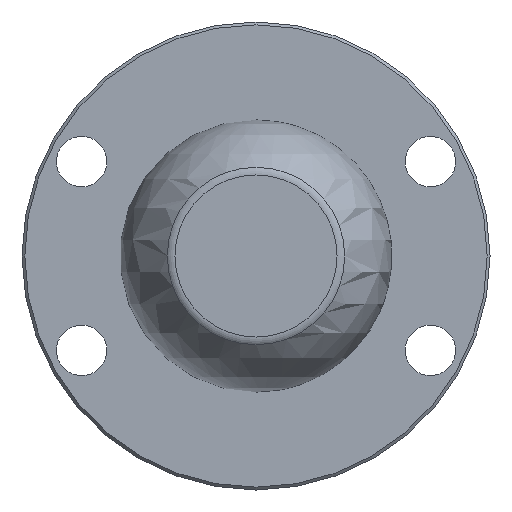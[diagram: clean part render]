
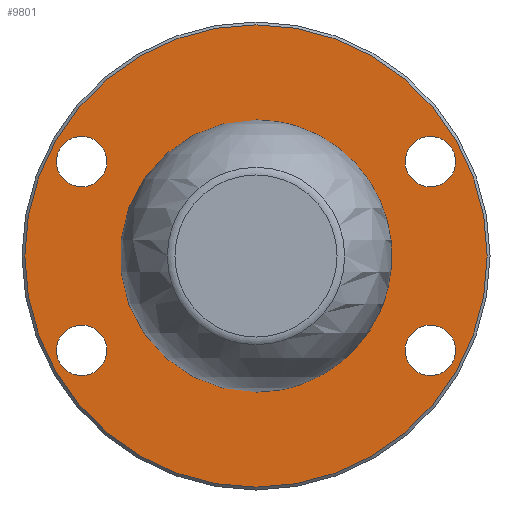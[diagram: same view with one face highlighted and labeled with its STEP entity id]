
A CAD part, left-side view. The second image highlights one B-rep face of the part: STEP entity #9801.
In plain terms, the highlighted planar face has unit normal (-1, 0, 0).
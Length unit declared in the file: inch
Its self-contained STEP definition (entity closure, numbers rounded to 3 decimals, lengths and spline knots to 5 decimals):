
#151=FACE_BOUND('',#1771,.T.);
#152=FACE_BOUND('',#1772,.T.);
#153=FACE_BOUND('',#1773,.T.);
#154=FACE_BOUND('',#1774,.T.);
#155=FACE_BOUND('',#1775,.T.);
#643=PLANE('',#10500);
#1172=FACE_OUTER_BOUND('',#1770,.T.);
#1770=EDGE_LOOP('',(#9136));
#1771=EDGE_LOOP('',(#9137));
#1772=EDGE_LOOP('',(#9138));
#1773=EDGE_LOOP('',(#9139));
#1774=EDGE_LOOP('',(#9140));
#1775=EDGE_LOOP('',(#9141));
#2387=CIRCLE('',#10499,0.6205);
#2388=CIRCLE('',#10501,1.225);
#2389=CIRCLE('',#10502,0.13386);
#2390=CIRCLE('',#10503,0.13386);
#2391=CIRCLE('',#10504,0.13386);
#2392=CIRCLE('',#10505,0.13386);
#4867=VERTEX_POINT('',#20762);
#4868=VERTEX_POINT('',#20765);
#4869=VERTEX_POINT('',#20767);
#4870=VERTEX_POINT('',#20769);
#4871=VERTEX_POINT('',#20771);
#4872=VERTEX_POINT('',#20773);
#6297=EDGE_CURVE('',#4867,#4867,#2387,.T.);
#6298=EDGE_CURVE('',#4868,#4868,#2388,.T.);
#6299=EDGE_CURVE('',#4869,#4869,#2389,.T.);
#6300=EDGE_CURVE('',#4870,#4870,#2390,.T.);
#6301=EDGE_CURVE('',#4871,#4871,#2391,.T.);
#6302=EDGE_CURVE('',#4872,#4872,#2392,.T.);
#9136=ORIENTED_EDGE('',*,*,#6298,.F.);
#9137=ORIENTED_EDGE('',*,*,#6299,.T.);
#9138=ORIENTED_EDGE('',*,*,#6300,.T.);
#9139=ORIENTED_EDGE('',*,*,#6301,.T.);
#9140=ORIENTED_EDGE('',*,*,#6302,.T.);
#9141=ORIENTED_EDGE('',*,*,#6297,.F.);
#9801=ADVANCED_FACE('',(#1172,#151,#152,#153,#154,#155),#643,.F.);
#10499=AXIS2_PLACEMENT_3D('',#20763,#12619,#12620);
#10500=AXIS2_PLACEMENT_3D('',#20764,#12621,#12622);
#10501=AXIS2_PLACEMENT_3D('',#20766,#12623,#12624);
#10502=AXIS2_PLACEMENT_3D('',#20768,#12625,#12626);
#10503=AXIS2_PLACEMENT_3D('',#20770,#12627,#12628);
#10504=AXIS2_PLACEMENT_3D('',#20772,#12629,#12630);
#10505=AXIS2_PLACEMENT_3D('',#20774,#12631,#12632);
#12619=DIRECTION('center_axis',(-1.,0.,0.));
#12620=DIRECTION('ref_axis',(0.,-1.,0.));
#12621=DIRECTION('center_axis',(1.,0.,0.));
#12622=DIRECTION('ref_axis',(0.,0.,-1.));
#12623=DIRECTION('center_axis',(1.,0.,0.));
#12624=DIRECTION('ref_axis',(0.,0.,1.));
#12625=DIRECTION('center_axis',(1.,0.,0.));
#12626=DIRECTION('ref_axis',(0.,0.,-1.));
#12627=DIRECTION('center_axis',(1.,0.,0.));
#12628=DIRECTION('ref_axis',(0.,0.,-1.));
#12629=DIRECTION('center_axis',(1.,0.,0.));
#12630=DIRECTION('ref_axis',(0.,0.,-1.));
#12631=DIRECTION('center_axis',(1.,0.,0.));
#12632=DIRECTION('ref_axis',(0.,0.,-1.));
#20762=CARTESIAN_POINT('',(2.125,0.6205,0.));
#20763=CARTESIAN_POINT('Origin',(2.125,0.,0.));
#20764=CARTESIAN_POINT('Origin',(2.125,0.,0.));
#20765=CARTESIAN_POINT('',(2.125,0.,-1.225));
#20766=CARTESIAN_POINT('Origin',(2.125,0.,0.));
#20767=CARTESIAN_POINT('',(2.125,0.92395,-0.36614));
#20768=CARTESIAN_POINT('Origin',(2.125,0.92395,-0.5));
#20769=CARTESIAN_POINT('',(2.125,-0.92395,0.63386));
#20770=CARTESIAN_POINT('Origin',(2.125,-0.92395,0.5));
#20771=CARTESIAN_POINT('',(2.125,0.92395,0.63386));
#20772=CARTESIAN_POINT('Origin',(2.125,0.92395,0.5));
#20773=CARTESIAN_POINT('',(2.125,-0.92395,-0.36614));
#20774=CARTESIAN_POINT('Origin',(2.125,-0.92395,-0.5));
